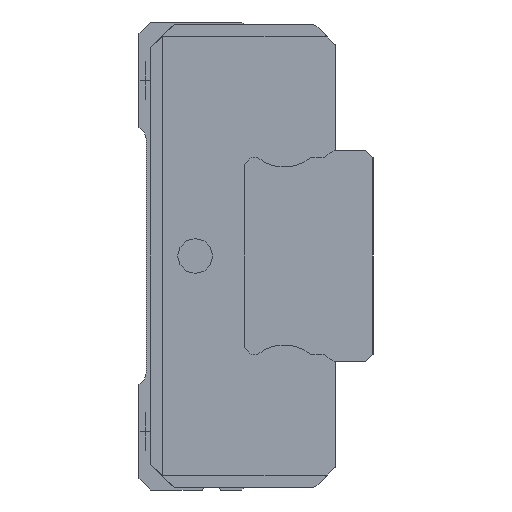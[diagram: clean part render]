
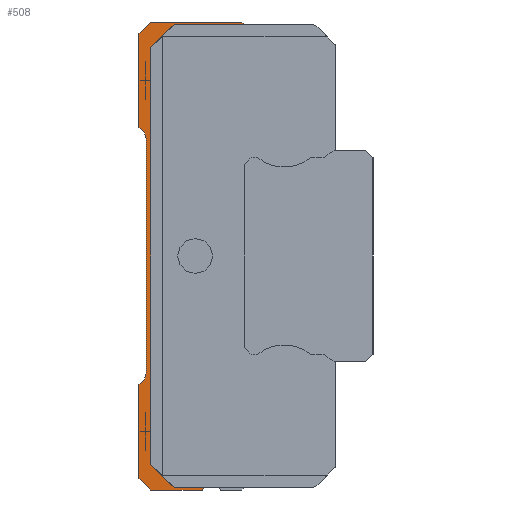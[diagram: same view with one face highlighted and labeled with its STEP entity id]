
A CAD part, left-side view. The second image highlights one B-rep face of the part: STEP entity #508.
In plain terms, the highlighted planar face has unit normal (-1, 0, 0).
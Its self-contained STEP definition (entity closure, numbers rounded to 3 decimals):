
#508 = ADVANCED_FACE( '', ( #1436 ), #1437, .F. );
#1436 = FACE_OUTER_BOUND( '', #2364, .T. );
#1437 = PLANE( '', #2365 );
#2364 = EDGE_LOOP( '', ( #5403, #5404, #5405, #5406, #5407, #5408, #5409, #5410, #5411, #5412, #5413, #5414, #5415, #5416, #5417, #5418, #5419, #5420 ) );
#2365 = AXIS2_PLACEMENT_3D( '', #5421, #5422, #5423 );
#5403 = ORIENTED_EDGE( '', *, *, #6223, .T. );
#5404 = ORIENTED_EDGE( '', *, *, #6373, .F. );
#5405 = ORIENTED_EDGE( '', *, *, #6371, .F. );
#5406 = ORIENTED_EDGE( '', *, *, #6369, .F. );
#5407 = ORIENTED_EDGE( '', *, *, #6367, .F. );
#5408 = ORIENTED_EDGE( '', *, *, #6365, .F. );
#5409 = ORIENTED_EDGE( '', *, *, #6363, .F. );
#5410 = ORIENTED_EDGE( '', *, *, #6361, .F. );
#5411 = ORIENTED_EDGE( '', *, *, #6359, .F. );
#5412 = ORIENTED_EDGE( '', *, *, #6357, .F. );
#5413 = ORIENTED_EDGE( '', *, *, #6355, .F. );
#5414 = ORIENTED_EDGE( '', *, *, #6353, .F. );
#5415 = ORIENTED_EDGE( '', *, *, #6351, .F. );
#5416 = ORIENTED_EDGE( '', *, *, #6349, .F. );
#5417 = ORIENTED_EDGE( '', *, *, #6254, .T. );
#5418 = ORIENTED_EDGE( '', *, *, #6287, .T. );
#5419 = ORIENTED_EDGE( '', *, *, #6284, .T. );
#5420 = ORIENTED_EDGE( '', *, *, #6213, .T. );
#5421 = CARTESIAN_POINT( '', ( 480.1, 1.5, 0. ) );
#5422 = DIRECTION( '', ( 1., 0., 0. ) );
#5423 = DIRECTION( '', ( 0., 0., -1. ) );
#6213 = EDGE_CURVE( '', #7712, #7710, #7713, .T. );
#6223 = EDGE_CURVE( '', #7710, #7727, #7729, .T. );
#6254 = EDGE_CURVE( '', #7780, #7778, #7781, .T. );
#6284 = EDGE_CURVE( '', #7827, #7712, #7828, .T. );
#6287 = EDGE_CURVE( '', #7778, #7827, #7831, .T. );
#6349 = EDGE_CURVE( '', #7780, #7911, #7912, .T. );
#6351 = EDGE_CURVE( '', #7911, #7914, #7915, .T. );
#6353 = EDGE_CURVE( '', #7914, #7917, #7918, .T. );
#6355 = EDGE_CURVE( '', #7917, #7920, #7921, .T. );
#6357 = EDGE_CURVE( '', #7920, #7923, #7924, .T. );
#6359 = EDGE_CURVE( '', #7923, #7926, #7927, .T. );
#6361 = EDGE_CURVE( '', #7926, #7929, #7930, .T. );
#6363 = EDGE_CURVE( '', #7929, #7932, #7933, .T. );
#6365 = EDGE_CURVE( '', #7932, #7935, #7936, .T. );
#6367 = EDGE_CURVE( '', #7935, #7938, #7939, .T. );
#6369 = EDGE_CURVE( '', #7938, #7941, #7942, .T. );
#6371 = EDGE_CURVE( '', #7941, #7944, #7945, .T. );
#6373 = EDGE_CURVE( '', #7944, #7727, #7947, .T. );
#7710 = VERTEX_POINT( '', #9610 );
#7712 = VERTEX_POINT( '', #9613 );
#7713 = LINE( '', #9614, #9615 );
#7727 = VERTEX_POINT( '', #9637 );
#7729 = LINE( '', #9640, #9641 );
#7778 = VERTEX_POINT( '', #9714 );
#7780 = VERTEX_POINT( '', #9717 );
#7781 = LINE( '', #9718, #9719 );
#7827 = VERTEX_POINT( '', #9793 );
#7828 = LINE( '', #9794, #9795 );
#7831 = LINE( '', #9800, #9801 );
#7911 = VERTEX_POINT( '', #9923 );
#7912 = CIRCLE( '', #9924, 0.5 );
#7914 = VERTEX_POINT( '', #9927 );
#7915 = LINE( '', #9928, #9929 );
#7917 = VERTEX_POINT( '', #9932 );
#7918 = LINE( '', #9933, #9934 );
#7920 = VERTEX_POINT( '', #9937 );
#7921 = LINE( '', #9938, #9939 );
#7923 = VERTEX_POINT( '', #9942 );
#7924 = LINE( '', #9943, #9944 );
#7926 = VERTEX_POINT( '', #9947 );
#7927 = CIRCLE( '', #9948, 0.5 );
#7929 = VERTEX_POINT( '', #9951 );
#7930 = LINE( '', #9952, #9953 );
#7932 = VERTEX_POINT( '', #9956 );
#7933 = CIRCLE( '', #9957, 0.5 );
#7935 = VERTEX_POINT( '', #9960 );
#7936 = LINE( '', #9961, #9962 );
#7938 = VERTEX_POINT( '', #9965 );
#7939 = LINE( '', #9966, #9967 );
#7941 = VERTEX_POINT( '', #9970 );
#7942 = LINE( '', #9971, #9972 );
#7944 = VERTEX_POINT( '', #9975 );
#7945 = LINE( '', #9976, #9977 );
#7947 = LINE( '', #9980, #9981 );
#9610 = CARTESIAN_POINT( '', ( 480.1, 8.5, 9.9 ) );
#9613 = CARTESIAN_POINT( '', ( 480.1, 9.5, 8.9 ) );
#9614 = CARTESIAN_POINT( '', ( 480.1, 9.725, 8.675 ) );
#9615 = VECTOR( '', #11695, 1. );
#9637 = CARTESIAN_POINT( '', ( 480.1, 5.5, 9.9 ) );
#9640 = CARTESIAN_POINT( '', ( 480.1, 5., 9.9 ) );
#9641 = VECTOR( '', #11705, 1. );
#9714 = CARTESIAN_POINT( '', ( 480.1, 8.5, -9.9 ) );
#9717 = CARTESIAN_POINT( '', ( 480.1, 7.2, -9.9 ) );
#9718 = CARTESIAN_POINT( '', ( 480.1, 2.1, -9.9 ) );
#9719 = VECTOR( '', #11746, 1. );
#9793 = CARTESIAN_POINT( '', ( 480.1, 9.5, -8.9 ) );
#9794 = CARTESIAN_POINT( '', ( 480.1, 9.5, -4.45 ) );
#9795 = VECTOR( '', #11778, 1. );
#9800 = CARTESIAN_POINT( '', ( 480.1, 9.225, -9.175 ) );
#9801 = VECTOR( '', #11781, 1. );
#9923 = CARTESIAN_POINT( '', ( 480.1, 7.3, -10. ) );
#9924 = AXIS2_PLACEMENT_3D( '', #11881, #11882, #11883 );
#9927 = CARTESIAN_POINT( '', ( 480.1, 9.5, -10. ) );
#9928 = CARTESIAN_POINT( '', ( 480.1, 7.3, -10. ) );
#9929 = VECTOR( '', #11885, 1. );
#9932 = CARTESIAN_POINT( '', ( 480.1, 10., -9.5 ) );
#9933 = CARTESIAN_POINT( '', ( 480.1, 9.5, -10. ) );
#9934 = VECTOR( '', #11887, 1. );
#9937 = CARTESIAN_POINT( '', ( 480.1, 10., -5.5 ) );
#9938 = CARTESIAN_POINT( '', ( 480.1, 10., -9.5 ) );
#9939 = VECTOR( '', #11889, 1. );
#9942 = CARTESIAN_POINT( '', ( 480.1, 9.855, -5.362 ) );
#9943 = CARTESIAN_POINT( '', ( 480.1, 10., -5.5 ) );
#9944 = VECTOR( '', #11891, 1. );
#9947 = CARTESIAN_POINT( '', ( 480.1, 9.7, -5. ) );
#9948 = AXIS2_PLACEMENT_3D( '', #11893, #11894, #11895 );
#9951 = CARTESIAN_POINT( '', ( 480.1, 9.7, 5. ) );
#9952 = CARTESIAN_POINT( '', ( 480.1, 9.7, -5. ) );
#9953 = VECTOR( '', #11897, 1. );
#9956 = CARTESIAN_POINT( '', ( 480.1, 9.855, 5.362 ) );
#9957 = AXIS2_PLACEMENT_3D( '', #11899, #11900, #11901 );
#9960 = CARTESIAN_POINT( '', ( 480.1, 10., 5.5 ) );
#9961 = CARTESIAN_POINT( '', ( 480.1, 9.855, 5.362 ) );
#9962 = VECTOR( '', #11903, 1. );
#9965 = CARTESIAN_POINT( '', ( 480.1, 10., 9.5 ) );
#9966 = CARTESIAN_POINT( '', ( 480.1, 10., 5.5 ) );
#9967 = VECTOR( '', #11905, 1. );
#9970 = CARTESIAN_POINT( '', ( 480.1, 9.5, 10. ) );
#9971 = CARTESIAN_POINT( '', ( 480.1, 10., 9.5 ) );
#9972 = VECTOR( '', #11907, 1. );
#9975 = CARTESIAN_POINT( '', ( 480.1, 5.6, 10. ) );
#9976 = CARTESIAN_POINT( '', ( 480.1, 9.5, 10. ) );
#9977 = VECTOR( '', #11909, 1. );
#9980 = CARTESIAN_POINT( '', ( 480.1, 5.6, 10. ) );
#9981 = VECTOR( '', #11911, 1. );
#11695 = DIRECTION( '', ( 0., -0.707, 0.707 ) );
#11705 = DIRECTION( '', ( 0., -1., 0. ) );
#11746 = DIRECTION( '', ( 0., 1., 0. ) );
#11778 = DIRECTION( '', ( 0., 0., 1. ) );
#11781 = DIRECTION( '', ( 0., 0.707, 0.707 ) );
#11881 = CARTESIAN_POINT( '', ( 480.1, 6.9, -10.3 ) );
#11882 = DIRECTION( '', ( -1., 0., 0. ) );
#11883 = DIRECTION( '', ( 0., -0.8, 0.6 ) );
#11885 = DIRECTION( '', ( 0., 1., 0. ) );
#11887 = DIRECTION( '', ( 0., 0.707, 0.707 ) );
#11889 = DIRECTION( '', ( 0., 0., 1. ) );
#11891 = DIRECTION( '', ( 0., -0.724, 0.69 ) );
#11893 = CARTESIAN_POINT( '', ( 480.1, 10.2, -5. ) );
#11894 = DIRECTION( '', ( -1., 0., 0. ) );
#11895 = DIRECTION( '', ( 0., -0.69, -0.724 ) );
#11897 = DIRECTION( '', ( 0., 0., 1. ) );
#11899 = CARTESIAN_POINT( '', ( 480.1, 10.2, 5. ) );
#11900 = DIRECTION( '', ( -1., 0., 0. ) );
#11901 = DIRECTION( '', ( 0., -1., 0. ) );
#11903 = DIRECTION( '', ( 0., 0.724, 0.69 ) );
#11905 = DIRECTION( '', ( 0., 0., 1. ) );
#11907 = DIRECTION( '', ( 0., -0.707, 0.707 ) );
#11909 = DIRECTION( '', ( 0., -1., 0. ) );
#11911 = DIRECTION( '', ( 0., -0.707, -0.707 ) );
